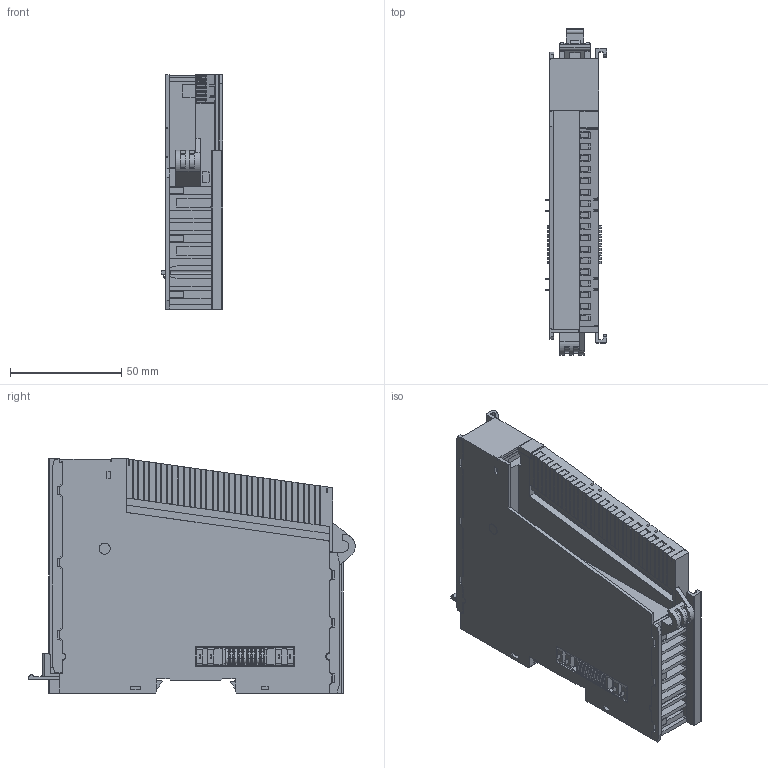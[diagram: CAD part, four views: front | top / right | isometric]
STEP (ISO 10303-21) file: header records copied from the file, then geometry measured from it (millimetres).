
FILE_DESCRIPTION (( 'STEP AP214' ), '1' );
FILE_NAME ('HI5069 Series.STEP', '2024-12-18T18:25:15', ( '' ), ( '' ), 'SwSTEP 2.0', 'SolidWorks 2023', '' );
FILE_SCHEMA (( 'AUTOMOTIVE_DESIGN' ));
Length unit declared in the file: inch
Products named in the file (1): HI5069 Series
Bounding box: 27.55 x 146.76 x 105.42 mm (x, y, z)
Volume: 203824.8 mm3; surface area: 70203.3 mm2
Topology: 1 solids, 2 shells, 1867 faces, 5450 edges, 3567 vertices
Faces by surface type: plane 1280, cylinder 587
Full cylindrical faces by diameter (mm): 3 x1, 5 x1
Entity records: 61433 total; most frequent: CARTESIAN_POINT 11890, ORIENTED_EDGE 10896, DIRECTION 9800, EDGE_CURVE 5448, VECTOR 4232, LINE 4232, VERTEX_POINT 3567, AXIS2_PLACEMENT_3D 2784
